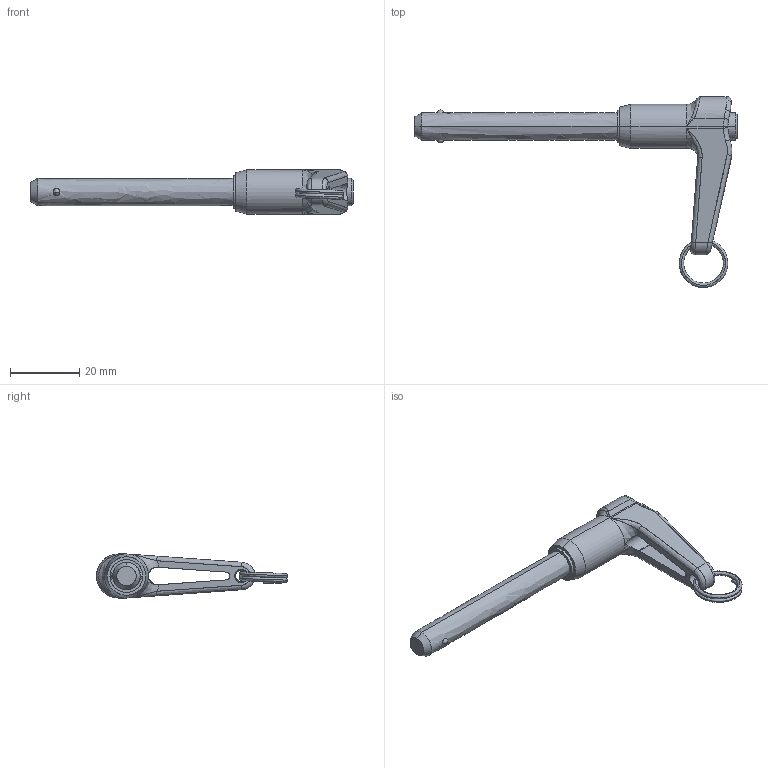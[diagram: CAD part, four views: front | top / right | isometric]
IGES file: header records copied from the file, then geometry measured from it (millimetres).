
Start section: SolidWorks IGES file using analytic representation for surfaces
Global section: file name: C:\Documents and Settings\IANO\My Documents\Wix and Auto CAD Work\CAD Models\Parametric Models\Wix Models\30000\33620_v2\33620_v2_20160606_IGES\33620.C020.igs; native system: SolidWorks 2009; preprocessor: SolidWorks 2009; author: IANO; date: 160615.125835; units: inch
Bounding box: 93.05 x 55.09 x 12.7 mm (x, y, z)
Surface area: 6211.4 mm2 (no closed solid volume)
Topology: 0 solids, 0 shells, 85 faces, 1226 edges, 1224 vertices
Faces by surface type: bspline 55, revolution 30
